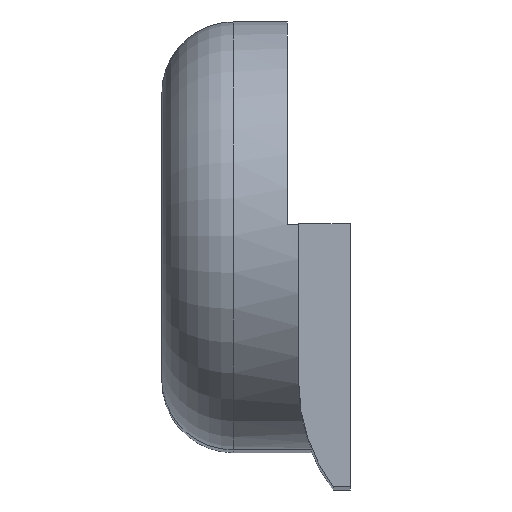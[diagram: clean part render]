
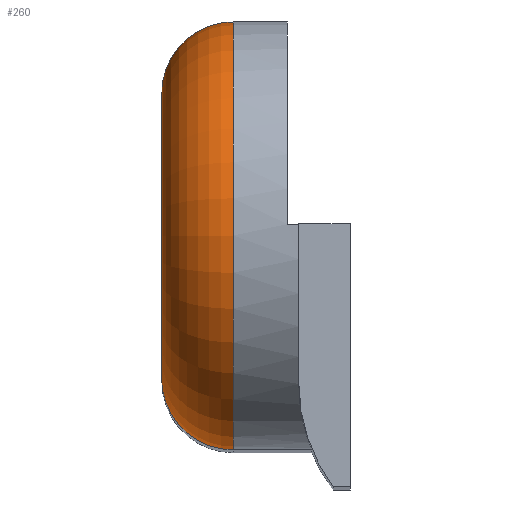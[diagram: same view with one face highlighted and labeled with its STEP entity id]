
A CAD part, top view. The second image highlights one B-rep face of the part: STEP entity #260.
In plain terms, the highlighted toroidal (fillet/blend) face has major radius 5 mm and minor radius 2.5 mm.
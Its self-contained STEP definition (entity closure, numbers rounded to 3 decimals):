
#21 = EDGE_CURVE('',#22,#24,#26,.T.);
#22 = VERTEX_POINT('',#23);
#23 = CARTESIAN_POINT('',(-44.3,7.5,28.5));
#24 = VERTEX_POINT('',#25);
#25 = CARTESIAN_POINT('',(-44.3,-7.5,28.5));
#26 = SURFACE_CURVE('',#27,(#32,#44),.PCURVE_S1.);
#27 = CIRCLE('',#28,7.5);
#28 = AXIS2_PLACEMENT_3D('',#29,#30,#31);
#29 = CARTESIAN_POINT('',(-44.3,0.,28.5));
#30 = DIRECTION('',(1.,0.,-0.));
#31 = DIRECTION('',(0.,1.,0.));
#32 = PCURVE('',#33,#38);
#33 = CYLINDRICAL_SURFACE('',#34,7.5);
#34 = AXIS2_PLACEMENT_3D('',#35,#36,#37);
#35 = CARTESIAN_POINT('',(-46.8,0.,28.5));
#36 = DIRECTION('',(-1.,-0.,0.));
#37 = DIRECTION('',(-0.,0.,-1.));
#38 = DEFINITIONAL_REPRESENTATION('',(#39),#43);
#39 = LINE('',#40,#41);
#40 = CARTESIAN_POINT('',(4.712,-2.5));
#41 = VECTOR('',#42,1.);
#42 = DIRECTION('',(-1.,0.));
#43 = ( GEOMETRIC_REPRESENTATION_CONTEXT(2) 
PARAMETRIC_REPRESENTATION_CONTEXT() REPRESENTATION_CONTEXT('2D SPACE',''
  ) );
#44 = PCURVE('',#45,#50);
#45 = TOROIDAL_SURFACE('',#46,5.,2.5);
#46 = AXIS2_PLACEMENT_3D('',#47,#48,#49);
#47 = CARTESIAN_POINT('',(-44.3,0.,28.5));
#48 = DIRECTION('',(-1.,0.,0.));
#49 = DIRECTION('',(0.,1.,0.));
#50 = DEFINITIONAL_REPRESENTATION('',(#51),#55);
#51 = LINE('',#52,#53);
#52 = CARTESIAN_POINT('',(6.283,0.));
#53 = VECTOR('',#54,1.);
#54 = DIRECTION('',(-1.,0.));
#55 = ( GEOMETRIC_REPRESENTATION_CONTEXT(2) 
PARAMETRIC_REPRESENTATION_CONTEXT() REPRESENTATION_CONTEXT('2D SPACE',''
  ) );
#260 = ADVANCED_FACE('',(#261),#45,.T.);
#261 = FACE_BOUND('',#262,.T.);
#262 = EDGE_LOOP('',(#263,#298,#323,#324));
#263 = ORIENTED_EDGE('',*,*,#264,.T.);
#264 = EDGE_CURVE('',#265,#267,#269,.T.);
#265 = VERTEX_POINT('',#266);
#266 = CARTESIAN_POINT('',(-46.8,5.,28.5));
#267 = VERTEX_POINT('',#268);
#268 = CARTESIAN_POINT('',(-46.8,-5.,28.5));
#269 = SURFACE_CURVE('',#270,(#275,#282),.PCURVE_S1.);
#270 = CIRCLE('',#271,5.);
#271 = AXIS2_PLACEMENT_3D('',#272,#273,#274);
#272 = CARTESIAN_POINT('',(-46.8,0.,28.5));
#273 = DIRECTION('',(1.,0.,-0.));
#274 = DIRECTION('',(0.,1.,0.));
#275 = PCURVE('',#45,#276);
#276 = DEFINITIONAL_REPRESENTATION('',(#277),#281);
#277 = LINE('',#278,#279);
#278 = CARTESIAN_POINT('',(6.283,1.571));
#279 = VECTOR('',#280,1.);
#280 = DIRECTION('',(-1.,0.));
#281 = ( GEOMETRIC_REPRESENTATION_CONTEXT(2) 
PARAMETRIC_REPRESENTATION_CONTEXT() REPRESENTATION_CONTEXT('2D SPACE',''
  ) );
#282 = PCURVE('',#283,#288);
#283 = PLANE('',#284);
#284 = AXIS2_PLACEMENT_3D('',#285,#286,#287);
#285 = CARTESIAN_POINT('',(-46.8,0.,0.));
#286 = DIRECTION('',(-1.,0.,0.));
#287 = DIRECTION('',(0.,0.,1.));
#288 = DEFINITIONAL_REPRESENTATION('',(#289),#297);
#289 = ( BOUNDED_CURVE() B_SPLINE_CURVE(2,(#290,#291,#292,#293,#294,#295
,#296),.UNSPECIFIED.,.T.,.F.) B_SPLINE_CURVE_WITH_KNOTS((1,2,2,2,2,1),(
    -2.094,0.,2.094,4.189,6.283,
8.378),.UNSPECIFIED.) CURVE() GEOMETRIC_REPRESENTATION_ITEM() 
RATIONAL_B_SPLINE_CURVE((1.,0.5,1.,0.5,1.,0.5,1.)) REPRESENTATION_ITEM(
  '') );
#290 = CARTESIAN_POINT('',(28.5,5.));
#291 = CARTESIAN_POINT('',(37.16,5.));
#292 = CARTESIAN_POINT('',(32.83,-2.5));
#293 = CARTESIAN_POINT('',(28.5,-10.));
#294 = CARTESIAN_POINT('',(24.17,-2.5));
#295 = CARTESIAN_POINT('',(19.84,5.));
#296 = CARTESIAN_POINT('',(28.5,5.));
#297 = ( GEOMETRIC_REPRESENTATION_CONTEXT(2) 
PARAMETRIC_REPRESENTATION_CONTEXT() REPRESENTATION_CONTEXT('2D SPACE',''
  ) );
#298 = ORIENTED_EDGE('',*,*,#299,.F.);
#299 = EDGE_CURVE('',#24,#267,#300,.T.);
#300 = SURFACE_CURVE('',#301,(#306,#312),.PCURVE_S1.);
#301 = CIRCLE('',#302,2.5);
#302 = AXIS2_PLACEMENT_3D('',#303,#304,#305);
#303 = CARTESIAN_POINT('',(-44.3,-5.,28.5));
#304 = DIRECTION('',(-0.,0.,-1.));
#305 = DIRECTION('',(-0.,-1.,0.));
#306 = PCURVE('',#45,#307);
#307 = DEFINITIONAL_REPRESENTATION('',(#308),#311);
#308 = B_SPLINE_CURVE_WITH_KNOTS('',1,(#309,#310),.UNSPECIFIED.,.F.,.F.,
  (2,2),(0.,1.571),.PIECEWISE_BEZIER_KNOTS.);
#309 = CARTESIAN_POINT('',(3.142,0.));
#310 = CARTESIAN_POINT('',(3.142,1.571));
#311 = ( GEOMETRIC_REPRESENTATION_CONTEXT(2) 
PARAMETRIC_REPRESENTATION_CONTEXT() REPRESENTATION_CONTEXT('2D SPACE',''
  ) );
#312 = PCURVE('',#313,#318);
#313 = CYLINDRICAL_SURFACE('',#314,2.5);
#314 = AXIS2_PLACEMENT_3D('',#315,#316,#317);
#315 = CARTESIAN_POINT('',(-44.3,-5.,28.5));
#316 = DIRECTION('',(0.,0.,-1.));
#317 = DIRECTION('',(0.,-1.,0.));
#318 = DEFINITIONAL_REPRESENTATION('',(#319),#322);
#319 = B_SPLINE_CURVE_WITH_KNOTS('',1,(#320,#321),.UNSPECIFIED.,.F.,.F.,
  (2,2),(0.,1.571),.PIECEWISE_BEZIER_KNOTS.);
#320 = CARTESIAN_POINT('',(0.,0.));
#321 = CARTESIAN_POINT('',(1.571,0.));
#322 = ( GEOMETRIC_REPRESENTATION_CONTEXT(2) 
PARAMETRIC_REPRESENTATION_CONTEXT() REPRESENTATION_CONTEXT('2D SPACE',''
  ) );
#323 = ORIENTED_EDGE('',*,*,#21,.F.);
#324 = ORIENTED_EDGE('',*,*,#325,.T.);
#325 = EDGE_CURVE('',#22,#265,#326,.T.);
#326 = SURFACE_CURVE('',#327,(#332,#338),.PCURVE_S1.);
#327 = CIRCLE('',#328,2.5);
#328 = AXIS2_PLACEMENT_3D('',#329,#330,#331);
#329 = CARTESIAN_POINT('',(-44.3,5.,28.5));
#330 = DIRECTION('',(0.,-0.,1.));
#331 = DIRECTION('',(0.,1.,0.));
#332 = PCURVE('',#45,#333);
#333 = DEFINITIONAL_REPRESENTATION('',(#334),#337);
#334 = B_SPLINE_CURVE_WITH_KNOTS('',1,(#335,#336),.UNSPECIFIED.,.F.,.F.,
  (2,2),(0.,1.571),.PIECEWISE_BEZIER_KNOTS.);
#335 = CARTESIAN_POINT('',(6.283,0.));
#336 = CARTESIAN_POINT('',(6.283,1.571));
#337 = ( GEOMETRIC_REPRESENTATION_CONTEXT(2) 
PARAMETRIC_REPRESENTATION_CONTEXT() REPRESENTATION_CONTEXT('2D SPACE',''
  ) );
#338 = PCURVE('',#339,#344);
#339 = CYLINDRICAL_SURFACE('',#340,2.5);
#340 = AXIS2_PLACEMENT_3D('',#341,#342,#343);
#341 = CARTESIAN_POINT('',(-44.3,5.,-28.5));
#342 = DIRECTION('',(0.,0.,1.));
#343 = DIRECTION('',(0.,1.,0.));
#344 = DEFINITIONAL_REPRESENTATION('',(#345),#348);
#345 = B_SPLINE_CURVE_WITH_KNOTS('',1,(#346,#347),.UNSPECIFIED.,.F.,.F.,
  (2,2),(0.,1.571),.PIECEWISE_BEZIER_KNOTS.);
#346 = CARTESIAN_POINT('',(0.,57.));
#347 = CARTESIAN_POINT('',(1.571,57.));
#348 = ( GEOMETRIC_REPRESENTATION_CONTEXT(2) 
PARAMETRIC_REPRESENTATION_CONTEXT() REPRESENTATION_CONTEXT('2D SPACE',''
  ) );
